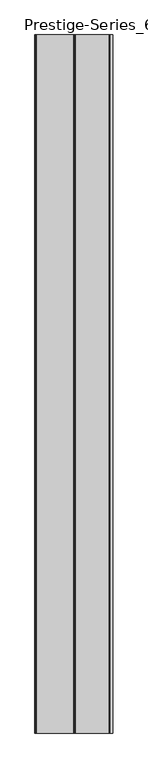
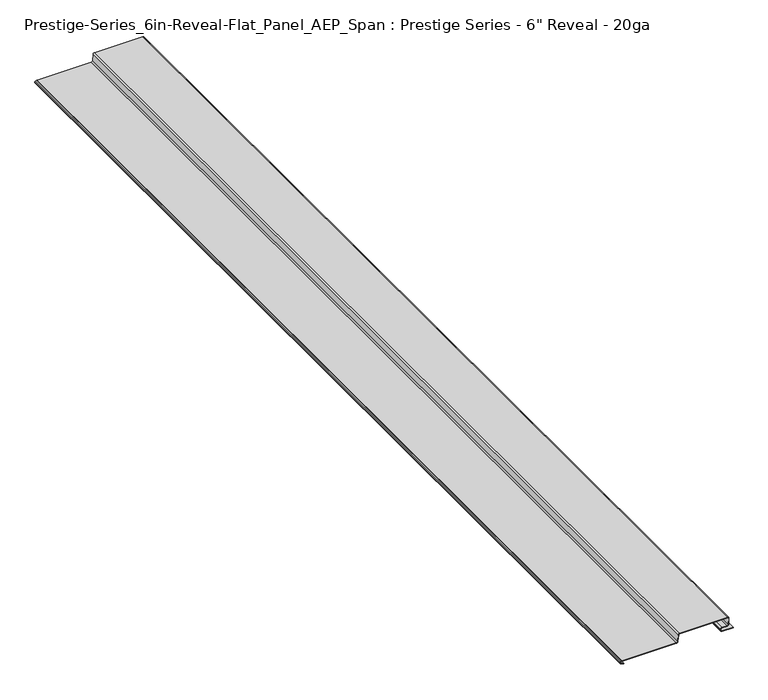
"""IFC4 building model written with IfcOpenShell, lengths in millimetres: proxy geometry."""

from ifc_helpers import new_model, si_unit, point, frame, frame_2d, origin, place, context, project, spatial, polyline, circle_curve, trimmed, segment, composite_curve, outline, extrude, source, transform, mapped, element, save


def proxy_4d0380a3(model_context):
    return source(origin(), model_context, "Body", "SweptSolid", [
        extrude(outline(composite_curve([segment(polyline([(3.7242703, -173.3774091), (0.5644947, -164.1070226), (1.4155751, -163.8169351), (4.5753508, -173.0873216)]), True, "CONTINUOUS"), segment(trimmed(circle_curve(frame_2d((6.6151497, -172.392064)), 2.155032), [point((4.5753508, -173.0873216))], [point((6.6828416, -174.5460325))], True, "CARTESIAN"), True, "CONTINUOUS"), segment(trimmed(circle_curve(frame_2d((6.7477884, -172.3919798)), 2.1550316), [point((6.6828416, -174.5460325))], [point((8.7773217, -173.1166561))], True, "CARTESIAN"), True, "CONTINUOUS"), segment(polyline([(8.7773217, -173.1166561), (9.8066494, -170.2339138)]), True, "CONTINUOUS"), segment(trimmed(circle_curve(frame_2d((4.6674035, -168.3988666)), 5.4570365), [point((9.8066494, -170.2339138))], [point((10.12444, -168.3988666))], True, "CARTESIAN"), True, "CONTINUOUS"), segment(polyline([(10.12444, -168.3988666), (10.12444, -5.3225321)]), True, "CONTINUOUS"), segment(trimmed(circle_curve(frame_2d((14.5718853, -5.3225321)), 4.4474453), [point((10.12444, -5.3225321))], [point((14.1809361, -0.8923032))], False, "CARTESIAN"), True, "CONTINUOUS"), segment(polyline([(14.1809361, -0.8923032), (34.4366714, 0.895181)]), True, "CONTINUOUS"), segment(trimmed(circle_curve(frame_2d((34.1702717, 3.9140177)), 3.0305683), [point((34.4366714, 0.895181))], [point((37.20084, 3.9140177))], True, "CARTESIAN"), True, "CONTINUOUS"), segment(polyline([(37.20084, 3.9140177), (37.20084, 148.4313161)]), True, "CONTINUOUS"), segment(trimmed(circle_curve(frame_2d((34.1568093, 148.4313161)), 3.0440307), [point((37.20084, 148.4313161))], [point((33.9974885, 151.4711746))], True, "CARTESIAN"), True, "CONTINUOUS"), segment(polyline([(33.9974885, 151.4711746), (14.8582693, 150.4680765)]), True, "CONTINUOUS"), segment(trimmed(circle_curve(frame_2d((15.0175901, 147.4282186)), 3.0440301), [point((14.8582693, 150.4680765))], [point((11.97356, 147.4282186))], True, "CARTESIAN"), True, "CONTINUOUS"), segment(polyline([(11.97356, 147.4282186), (11.97356, 131.6989604)]), True, "CONTINUOUS"), segment(trimmed(circle_curve(frame_2d((7.9055915, 131.6989604)), 4.0679685), [point((11.97356, 131.6989604))], [point((7.9055915, 127.6309919))], False, "CARTESIAN"), True, "CONTINUOUS"), segment(polyline([(7.9055915, 127.6309919), (3.9308085, 127.6309919)]), True, "CONTINUOUS"), segment(trimmed(circle_curve(frame_2d((3.9308085, 131.6989604)), 4.0679685), [point((3.9308085, 127.6309919))], [point((-0.13716, 131.6989604))], False, "CARTESIAN"), True, "CONTINUOUS"), segment(polyline([(-0.13716, 131.6989604), (-0.13716, 165.0612142), (0.762, 165.0612142), (0.762, 131.7051517)]), True, "CONTINUOUS"), segment(trimmed(circle_curve(frame_2d((3.9369998, 131.7051517)), 3.1749998), [point((0.762, 131.7051517))], [point((3.9369998, 128.5301519))], True, "CARTESIAN"), True, "CONTINUOUS"), segment(polyline([(3.9369998, 128.5301519), (7.8994002, 128.5301519)]), True, "CONTINUOUS"), segment(trimmed(circle_curve(frame_2d((7.8994002, 131.7051517)), 3.1749998), [point((7.8994002, 128.5301519))], [point((11.0744, 131.7051517))], True, "CARTESIAN"), True, "CONTINUOUS"), segment(polyline([(11.0744, 131.7051517), (11.0744, 147.4340938)]), True, "CONTINUOUS"), segment(trimmed(circle_curve(frame_2d((15.0113988, 147.4340938)), 3.9369988), [point((11.0744, 147.4340938))], [point((14.8053411, 151.3656966))], False, "CARTESIAN"), True, "CONTINUOUS"), segment(polyline([(14.8053411, 151.3656966), (33.9569429, 152.3694437)]), True, "CONTINUOUS"), segment(trimmed(circle_curve(frame_2d((34.1630006, 148.4378404)), 3.9369994), [point((33.9569429, 152.3694437))], [point((38.1, 148.4378404))], False, "CARTESIAN"), True, "CONTINUOUS"), segment(polyline([(38.1, 148.4378404), (38.1, 3.9083488)]), True, "CONTINUOUS"), segment(trimmed(circle_curve(frame_2d((34.1764629, 3.9083488)), 3.9235371), [point((38.1, 3.9083488))], [point((34.5213584, 0.0))], False, "CARTESIAN"), True, "CONTINUOUS"), segment(polyline([(34.5213584, 0.0), (14.2656231, -1.7874841)]), True, "CONTINUOUS"), segment(trimmed(circle_curve(frame_2d((14.5780766, -5.3282011)), 3.5544766), [point((14.2656231, -1.7874841))], [point((11.0236, -5.3282011))], True, "CARTESIAN"), True, "CONTINUOUS"), segment(polyline([(11.0236, -5.3282011), (11.0236, -168.3999388)]), True, "CONTINUOUS"), segment(trimmed(circle_curve(frame_2d((4.6735948, -168.3999388)), 6.3500052), [point((11.0236, -168.3999388))], [point((10.6538074, -170.5352662))], False, "CARTESIAN"), True, "CONTINUOUS"), segment(polyline([(10.6538074, -170.5352662), (9.6241191, -173.4190182)]), True, "CONTINUOUS"), segment(trimmed(circle_curve(frame_2d((6.7536191, -172.3940618)), 3.0480004), [point((9.6241191, -173.4190182))], [point((6.6814543, -175.4412077))], False, "CARTESIAN"), True, "CONTINUOUS"), segment(trimmed(circle_curve(frame_2d((6.6092895, -172.3940614)), 3.0480007), [point((6.6814543, -175.4412077))], [point((3.7242703, -173.3774091))], False, "CARTESIAN"), True, "CONTINUOUS")], self_intersect=False)), frame((0.0, -3048.0, 0.0), z_axis=(0.0, 1.0, 0.0), x_axis=(0.0, 0.0, 1.0)), (0.0, 0.0, 1.0), 3048.0),
    ])


if __name__ == "__main__":
    model = new_model("IFC4")
    model_context = context("Model", 3, world=origin())
    ifc_project = project(units=[si_unit("LENGTHUNIT", "METRE", prefix="MILLI")], contexts=[model_context])
    site = spatial("IfcSite", under=ifc_project)
    building = spatial("IfcBuilding", under=site)
    placement = place(None, origin())
    proxy_shape = proxy_4d0380a3(model_context)
    element("IfcBuildingElementProxy", 1, Name="Prestige-Series_6in-Reveal-Flat_Panel_AEP_Span : Prestige Series - 6\" Reveal - 20ga", ObjectType="Prestige-Series_6in-Reveal-Flat_Panel_AEP_Span : Prestige Series - 6\" Reveal - 20ga", at=placement, inside=building, context=model_context, shape_type="MappedRepresentation", body=[
        mapped(proxy_shape, transform((0.0, 0.0, 0.0), x_axis=(1.0, 0.0, 0.0), y_axis=(0.0, 1.0, 0.0), z_axis=(0.0, 0.0, 1.0))),
    ])
    save(model, "model.ifc")
